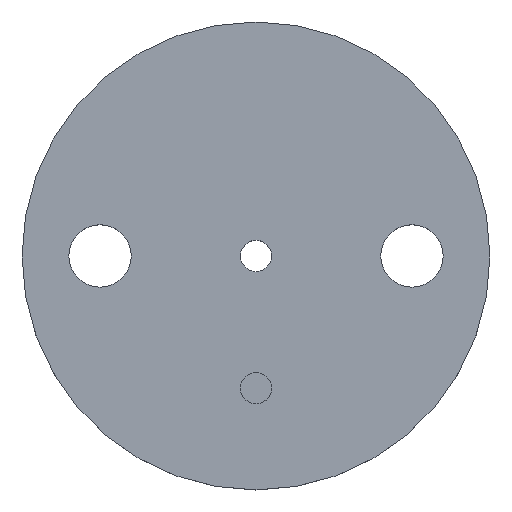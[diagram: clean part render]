
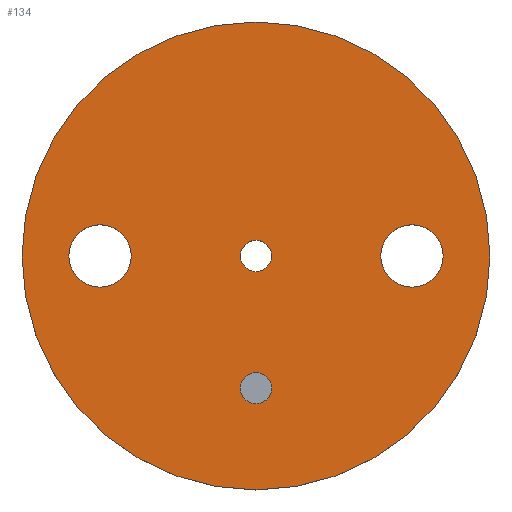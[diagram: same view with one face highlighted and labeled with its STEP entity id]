
A CAD part, top view. The second image highlights one B-rep face of the part: STEP entity #134.
In plain terms, the highlighted planar face has unit normal (0, 0, 1).
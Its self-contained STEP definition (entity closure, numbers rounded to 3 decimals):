
#15=FACE_BOUND('',#40,.T.);
#16=FACE_BOUND('',#41,.T.);
#17=FACE_BOUND('',#42,.T.);
#18=FACE_BOUND('',#43,.T.);
#23=PLANE('',#172);
#31=FACE_OUTER_BOUND('',#39,.T.);
#39=EDGE_LOOP('',(#114));
#40=EDGE_LOOP('',(#115));
#41=EDGE_LOOP('',(#116));
#42=EDGE_LOOP('',(#117));
#43=EDGE_LOOP('',(#118));
#58=CIRCLE('',#157,1.);
#60=CIRCLE('',#160,1.);
#63=CIRCLE('',#164,0.5);
#64=CIRCLE('',#167,0.5);
#66=CIRCLE('',#170,7.5);
#68=VERTEX_POINT('',#219);
#70=VERTEX_POINT('',#225);
#73=VERTEX_POINT('',#233);
#74=VERTEX_POINT('',#238);
#76=VERTEX_POINT('',#244);
#78=EDGE_CURVE('',#68,#68,#58,.T.);
#81=EDGE_CURVE('',#70,#70,#60,.T.);
#86=EDGE_CURVE('',#73,#73,#63,.T.);
#87=EDGE_CURVE('',#74,#74,#64,.T.);
#90=EDGE_CURVE('',#76,#76,#66,.T.);
#114=ORIENTED_EDGE('',*,*,#90,.T.);
#115=ORIENTED_EDGE('',*,*,#78,.T.);
#116=ORIENTED_EDGE('',*,*,#81,.T.);
#117=ORIENTED_EDGE('',*,*,#86,.T.);
#118=ORIENTED_EDGE('',*,*,#87,.T.);
#134=ADVANCED_FACE('',(#31,#15,#16,#17,#18),#23,.T.);
#157=AXIS2_PLACEMENT_3D('',#220,#178,#179);
#160=AXIS2_PLACEMENT_3D('',#226,#185,#186);
#164=AXIS2_PLACEMENT_3D('',#235,#195,#196);
#167=AXIS2_PLACEMENT_3D('',#239,#201,#202);
#170=AXIS2_PLACEMENT_3D('',#245,#208,#209);
#172=AXIS2_PLACEMENT_3D('',#249,#213,#214);
#178=DIRECTION('center_axis',(0.,0.,-1.));
#179=DIRECTION('ref_axis',(1.,0.,0.));
#185=DIRECTION('center_axis',(0.,0.,-1.));
#186=DIRECTION('ref_axis',(1.,0.,0.));
#195=DIRECTION('center_axis',(0.,0.,-1.));
#196=DIRECTION('ref_axis',(1.,0.,0.));
#201=DIRECTION('center_axis',(0.,0.,-1.));
#202=DIRECTION('ref_axis',(-1.,0.,0.));
#208=DIRECTION('center_axis',(0.,0.,1.));
#209=DIRECTION('ref_axis',(1.,0.,0.));
#213=DIRECTION('center_axis',(0.,0.,1.));
#214=DIRECTION('ref_axis',(1.,0.,0.));
#219=CARTESIAN_POINT('',(4.,0.,1.));
#220=CARTESIAN_POINT('Origin',(5.,0.,1.));
#225=CARTESIAN_POINT('',(-6.,0.,1.));
#226=CARTESIAN_POINT('Origin',(-5.,0.,1.));
#233=CARTESIAN_POINT('',(-0.5,-4.239,1.));
#235=CARTESIAN_POINT('Origin',(0.,-4.239,1.));
#238=CARTESIAN_POINT('',(0.5,0.,1.));
#239=CARTESIAN_POINT('Origin',(0.,0.,1.));
#244=CARTESIAN_POINT('',(-7.5,0.,1.));
#245=CARTESIAN_POINT('Origin',(0.,0.,1.));
#249=CARTESIAN_POINT('Origin',(0.,0.,1.));
